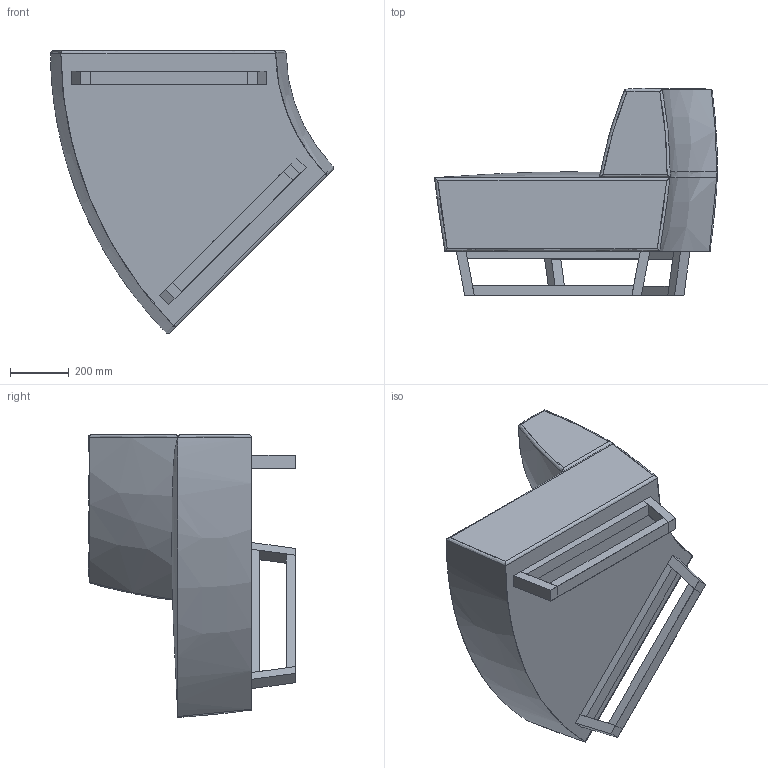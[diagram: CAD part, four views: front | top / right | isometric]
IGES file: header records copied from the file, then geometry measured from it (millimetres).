
Start section: SolidWorks IGES file using analytic representation for surfaces
Global section: file name: P:\3D CAD BLOCKS\us\45 DEGREE SEAT WITH SHORT BACK\us - 45 DEGREE SEAT WITH SHORT BACK.IGS; native system: SolidWorks 2012; preprocessor: SolidWorks 2012; author: adam; date: 140226.122009; units: millimetre
Bounding box: 961.53 x 703.49 x 960.82 mm (x, y, z)
Surface area: 3475882.2 mm2 (no closed solid volume)
Topology: 0 solids, 0 shells, 143 faces, 1391 edges, 1391 vertices
Faces by surface type: bspline 121, revolution 22
